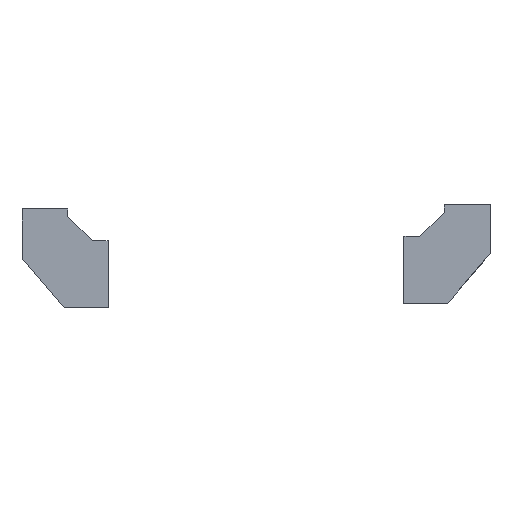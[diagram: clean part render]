
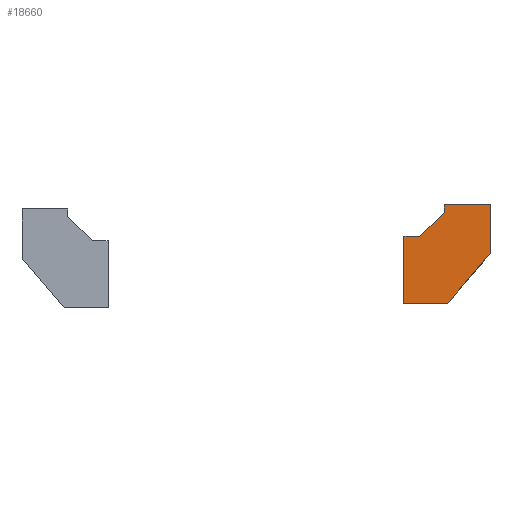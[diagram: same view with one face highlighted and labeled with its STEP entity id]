
A CAD part, left-side view. The second image highlights one B-rep face of the part: STEP entity #18660.
In plain terms, the highlighted planar face has unit normal (-1, 0, 0).
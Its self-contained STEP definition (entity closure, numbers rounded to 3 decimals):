
#559 = LINE ( 'NONE', #20766, #4204 ) ;
#570 = PLANE ( 'NONE',  #25130 ) ;
#946 = CARTESIAN_POINT ( 'NONE',  ( -100., -133.2, 60.19 ) ) ;
#1617 = CARTESIAN_POINT ( 'NONE',  ( -100., -107.2, 88.19 ) ) ;
#1993 = EDGE_CURVE ( 'NONE', #3279, #2012, #9746, .T. ) ;
#2012 = VERTEX_POINT ( 'NONE', #1617 ) ;
#2866 = EDGE_CURVE ( 'NONE', #7960, #26402, #11950, .T. ) ;
#3279 = VERTEX_POINT ( 'NONE', #7794 ) ;
#4099 = EDGE_CURVE ( 'NONE', #20202, #3279, #22925, .T. ) ;
#4204 = VECTOR ( 'NONE', #22895, 1000. ) ;
#4571 = DIRECTION ( 'NONE',  ( 0., 0.72, -0.694 ) ) ;
#4616 = VERTEX_POINT ( 'NONE', #14683 ) ;
#4704 = EDGE_CURVE ( 'NONE', #4616, #7960, #19950, .T. ) ;
#4775 = ORIENTED_EDGE ( 'NONE', *, *, #2866, .T. ) ;
#5156 = CARTESIAN_POINT ( 'NONE',  ( -100., -84.2, 70.19 ) ) ;
#6969 = CARTESIAN_POINT ( 'NONE',  ( -100., -133.2, 70.19 ) ) ;
#7741 = ORIENTED_EDGE ( 'NONE', *, *, #4099, .T. ) ;
#7794 = CARTESIAN_POINT ( 'NONE',  ( -100., -133.2, 88.19 ) ) ;
#7960 = VERTEX_POINT ( 'NONE', #21860 ) ;
#9067 = EDGE_LOOP ( 'NONE', ( #7741, #25495, #22229, #12303, #19818, #18527, #4775, #16895 ) ) ;
#9675 = EDGE_CURVE ( 'NONE', #13583, #4616, #10907, .T. ) ;
#9746 = LINE ( 'NONE', #14557, #17631 ) ;
#9967 = VECTOR ( 'NONE', #15054, 1000. ) ;
#10063 = DIRECTION ( 'NONE',  ( 0., 1., 0. ) ) ;
#10792 = DIRECTION ( 'NONE',  ( 0., 0., -1. ) ) ;
#10907 = LINE ( 'NONE', #21244, #20674 ) ;
#11086 = DIRECTION ( 'NONE',  ( 0., 0., -1. ) ) ;
#11186 = CARTESIAN_POINT ( 'NONE',  ( -100., -109.2, 32.19 ) ) ;
#11189 = CARTESIAN_POINT ( 'NONE',  ( -100., -93.2, 70.19 ) ) ;
#11950 = LINE ( 'NONE', #17348, #9967 ) ;
#12145 = VECTOR ( 'NONE', #24471, 1000. ) ;
#12303 = ORIENTED_EDGE ( 'NONE', *, *, #13423, .T. ) ;
#13170 = DIRECTION ( 'NONE',  ( -1., 0., 0. ) ) ;
#13423 = EDGE_CURVE ( 'NONE', #18472, #13583, #16034, .T. ) ;
#13544 = LINE ( 'NONE', #21193, #23033 ) ;
#13583 = VERTEX_POINT ( 'NONE', #11189 ) ;
#14054 = VECTOR ( 'NONE', #4571, 1000. ) ;
#14557 = CARTESIAN_POINT ( 'NONE',  ( -100., -133.2, 88.19 ) ) ;
#14683 = CARTESIAN_POINT ( 'NONE',  ( -100., -84.2, 70.19 ) ) ;
#14920 = FACE_OUTER_BOUND ( 'NONE', #9067, .T. ) ;
#15054 = DIRECTION ( 'NONE',  ( 0., -1., 0. ) ) ;
#15146 = DIRECTION ( 'NONE',  ( 0., 1., 0. ) ) ;
#16034 = LINE ( 'NONE', #19382, #14054 ) ;
#16504 = EDGE_CURVE ( 'NONE', #26402, #20202, #559, .T. ) ;
#16895 = ORIENTED_EDGE ( 'NONE', *, *, #16504, .T. ) ;
#17348 = CARTESIAN_POINT ( 'NONE',  ( -100., -84.2, 32.19 ) ) ;
#17631 = VECTOR ( 'NONE', #10063, 1000. ) ;
#18472 = VERTEX_POINT ( 'NONE', #20833 ) ;
#18527 = ORIENTED_EDGE ( 'NONE', *, *, #4704, .T. ) ;
#18660 = ADVANCED_FACE ( 'NONE', ( #14920 ), #570, .T. ) ;
#19382 = CARTESIAN_POINT ( 'NONE',  ( -100., -107.2, 83.69 ) ) ;
#19818 = ORIENTED_EDGE ( 'NONE', *, *, #9675, .T. ) ;
#19950 = LINE ( 'NONE', #5156, #22915 ) ;
#20040 = EDGE_CURVE ( 'NONE', #2012, #18472, #13544, .T. ) ;
#20202 = VERTEX_POINT ( 'NONE', #946 ) ;
#20674 = VECTOR ( 'NONE', #15146, 1000. ) ;
#20766 = CARTESIAN_POINT ( 'NONE',  ( -100., -109.2, 32.19 ) ) ;
#20833 = CARTESIAN_POINT ( 'NONE',  ( -100., -107.2, 83.69 ) ) ;
#21193 = CARTESIAN_POINT ( 'NONE',  ( -100., -107.2, 88.19 ) ) ;
#21244 = CARTESIAN_POINT ( 'NONE',  ( -100., -93.2, 70.19 ) ) ;
#21860 = CARTESIAN_POINT ( 'NONE',  ( -100., -84.2, 32.19 ) ) ;
#21873 = DIRECTION ( 'NONE',  ( 0., 0., -1. ) ) ;
#21975 = CARTESIAN_POINT ( 'NONE',  ( -100., -133.2, 60.19 ) ) ;
#22229 = ORIENTED_EDGE ( 'NONE', *, *, #20040, .T. ) ;
#22895 = DIRECTION ( 'NONE',  ( 0., -0.651, 0.759 ) ) ;
#22915 = VECTOR ( 'NONE', #21873, 1000. ) ;
#22925 = LINE ( 'NONE', #21975, #12145 ) ;
#23033 = VECTOR ( 'NONE', #10792, 1000. ) ;
#24471 = DIRECTION ( 'NONE',  ( 0., 0., 1. ) ) ;
#25130 = AXIS2_PLACEMENT_3D ( 'NONE', #6969, #13170, #11086 ) ;
#25495 = ORIENTED_EDGE ( 'NONE', *, *, #1993, .T. ) ;
#26402 = VERTEX_POINT ( 'NONE', #11186 ) ;
